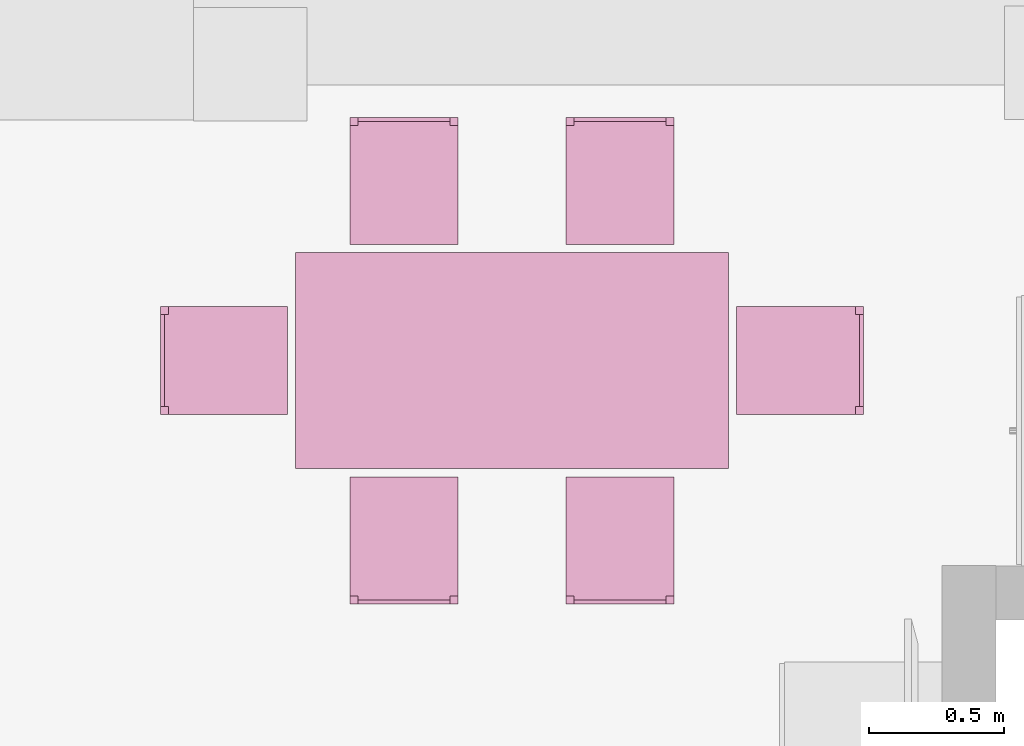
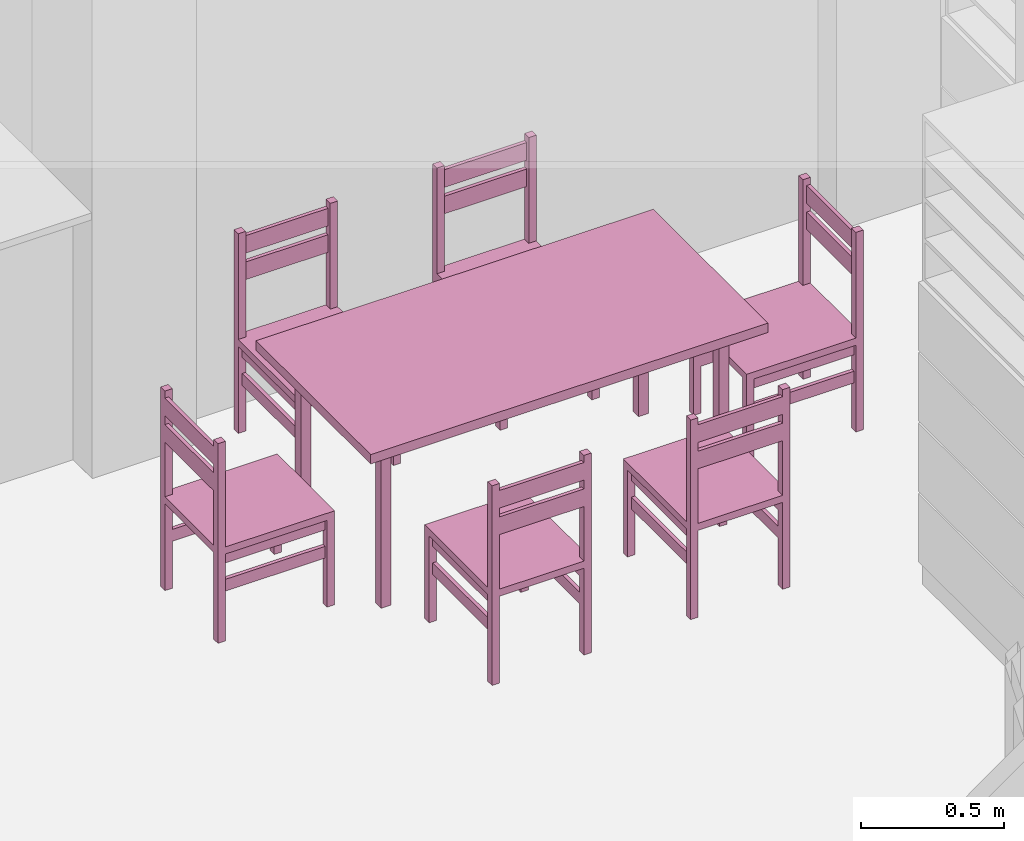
# One storey, part 105 of 127: 1 furnishing.
"""IFC2X3 building model written with IfcOpenShell, lengths in millimetres."""

from ifc_helpers import new_model, entity, si_unit, converted_unit, derived_unit, money_unit, direction, frame, origin_with_axes, place, context, subcontext, project, spatial, faceted_brep, type_object, element, save


model = new_model("IFC2X3")

# Units and contexts
model_context = context("Model", 3, precision=1e-05, world=origin_with_axes(), true_north=direction((0.0, 1.0)))
body_context = subcontext(model_context, "Body", "Model", "MODEL_VIEW")
ifc_project = project(units=[si_unit("LENGTHUNIT", "METRE", prefix="MILLI"), si_unit("AREAUNIT", "SQUARE_METRE"), si_unit("VOLUMEUNIT", "CUBIC_METRE"), converted_unit("PLANEANGLEUNIT", "DEGREE", entity("IfcPlaneAngleMeasure", 0.0174532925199), si_unit("PLANEANGLEUNIT", "RADIAN"), dimensions=[0, 0, 0, 0, 0, 0, 0]), si_unit("SOLIDANGLEUNIT", "STERADIAN"), money_unit("EUR"), converted_unit("TIMEUNIT", "Year", entity("IfcTimeMeasure", 31556926.0), si_unit("TIMEUNIT", "SECOND"), dimensions=[0, 0, 1, 0, 0, 0, 0]), si_unit("MASSUNIT", "GRAM", prefix="KILO"), si_unit("THERMODYNAMICTEMPERATUREUNIT", "DEGREE_CELSIUS"), si_unit("LUMINOUSINTENSITYUNIT", "LUMEN"), si_unit("ENERGYUNIT", "JOULE", prefix="MEGA"), derived_unit("THERMALCONDUCTANCEUNIT", [(si_unit("POWERUNIT", "WATT"), 1), (si_unit("LENGTHUNIT", "METRE"), -1), (si_unit("THERMODYNAMICTEMPERATUREUNIT", "KELVIN"), -1)]), derived_unit("SPECIFICHEATCAPACITYUNIT", [(si_unit("ENERGYUNIT", "JOULE"), 1), (si_unit("MASSUNIT", "GRAM", prefix="KILO"), -1), (si_unit("THERMODYNAMICTEMPERATUREUNIT", "KELVIN"), -1)]), derived_unit("MASSDENSITYUNIT", [(si_unit("MASSUNIT", "GRAM", prefix="KILO"), 1), (si_unit("VOLUMEUNIT", "CUBIC_METRE"), -1)])], contexts=[model_context])

# Site, building, storey
site_placement = place(None, origin_with_axes())
site = spatial("IfcSite", under=ifc_project, at=site_placement, Name="Site", CompositionType="ELEMENT")
building_placement = place(site_placement, origin_with_axes())
building = spatial("IfcBuilding", under=site, at=building_placement, Name="Building", CompositionType="ELEMENT")
storey_placement = place(building_placement, origin_with_axes())
storey = spatial("IfcBuildingStorey", under=building, at=storey_placement, Name="1 KORRUS", CompositionType="ELEMENT", Elevation=0.0)

# Furnishing
furnishing_element_type = type_object("IfcFurnishingElementType", Name="Dining Table Rectangle 22")
furnishing_placement = place(storey_placement, frame((34912.5371639, 45598.0911232, 0.0), z_axis=(0.0, 0.0, 1.0), x_axis=(1.0, 0.0, 0.0)))
element("IfcFurnishingElement", 1, at=furnishing_placement, inside=storey, type_object=furnishing_element_type, Name="FU - 017", context=body_context, shape_type="Brep", body=[
    faceted_brep([(-800.0, -400.0, 710.0), (800.0, -400.0, 710.0), (800.0, -400.0, 750.0), (-800.0, -400.0, 750.0), (-800.0, 400.0, 710.0), (800.0, 400.0, 710.0), (800.0, 400.0, 750.0), (-800.0, 400.0, 750.0)], [[[0, 1, 2, 3]], [[0, 4, 5, 1]], [[1, 5, 6, 2]], [[3, 2, 6, 7]], [[4, 0, 3, 7]], [[5, 4, 7, 6]]]),
    faceted_brep([(-660.0, -300.0, 0.0), (-700.0, -300.0, 0.0), (-700.0, -260.0, 0.0), (-660.0, -260.0, 0.0), (-660.0, -300.0, 710.0), (-700.0, -300.0, 710.0), (-700.0, -260.0, 710.0), (-660.0, -260.0, 710.0)], [[[0, 1, 2, 3]], [[1, 0, 4, 5]], [[2, 1, 5, 6]], [[3, 2, 6, 7]], [[0, 3, 7, 4]], [[5, 4, 7, 6]]]),
    faceted_brep([(700.0, -300.0, 0.0), (660.0, -300.0, 0.0), (660.0, -260.0, 0.0), (700.0, -260.0, 0.0), (700.0, -300.0, 710.0), (660.0, -300.0, 710.0), (660.0, -260.0, 710.0), (700.0, -260.0, 710.0)], [[[0, 1, 2, 3]], [[1, 0, 4, 5]], [[2, 1, 5, 6]], [[3, 2, 6, 7]], [[0, 3, 7, 4]], [[5, 4, 7, 6]]]),
    faceted_brep([(700.0, 260.0, 0.0), (660.0, 260.0, 0.0), (660.0, 300.0, 0.0), (700.0, 300.0, 0.0), (700.0, 260.0, 710.0), (660.0, 260.0, 710.0), (660.0, 300.0, 710.0), (700.0, 300.0, 710.0)], [[[0, 1, 2, 3]], [[1, 0, 4, 5]], [[2, 1, 5, 6]], [[3, 2, 6, 7]], [[0, 3, 7, 4]], [[5, 4, 7, 6]]]),
    faceted_brep([(-660.0, 260.0, 0.0), (-700.0, 260.0, 0.0), (-700.0, 300.0, 0.0), (-660.0, 300.0, 0.0), (-660.0, 260.0, 710.0), (-700.0, 260.0, 710.0), (-700.0, 300.0, 710.0), (-660.0, 300.0, 710.0)], [[[0, 1, 2, 3]], [[1, 0, 4, 5]], [[2, 1, 5, 6]], [[3, 2, 6, 7]], [[0, 3, 7, 4]], [[5, 4, 7, 6]]]),
    faceted_brep([(-660.0, -290.0, 660.0), (660.0, -290.0, 660.0), (660.0, -290.0, 710.0), (-660.0, -290.0, 710.0), (-660.0, -270.0, 660.0), (660.0, -270.0, 660.0), (660.0, -270.0, 710.0), (-660.0, -270.0, 710.0)], [[[0, 1, 2, 3]], [[0, 4, 5, 1]], [[1, 5, 6, 2]], [[3, 2, 6, 7]], [[4, 0, 3, 7]], [[5, 4, 7, 6]]]),
    faceted_brep([(-660.0, 270.0, 660.0), (660.0, 270.0, 660.0), (660.0, 270.0, 710.0), (-660.0, 270.0, 710.0), (-660.0, 290.0, 660.0), (660.0, 290.0, 660.0), (660.0, 290.0, 710.0), (-660.0, 290.0, 710.0)], [[[0, 1, 2, 3]], [[0, 4, 5, 1]], [[1, 5, 6, 2]], [[3, 2, 6, 7]], [[4, 0, 3, 7]], [[5, 4, 7, 6]]]),
    faceted_brep([(-690.0, -260.0, 660.0), (-670.0, -260.0, 660.0), (-670.0, -260.0, 710.0), (-690.0, -260.0, 710.0), (-690.0, 260.0, 660.0), (-670.0, 260.0, 660.0), (-670.0, 260.0, 710.0), (-690.0, 260.0, 710.0)], [[[0, 1, 2, 3]], [[0, 4, 5, 1]], [[1, 5, 6, 2]], [[3, 2, 6, 7]], [[4, 0, 3, 7]], [[5, 4, 7, 6]]]),
    faceted_brep([(670.0, -260.0, 660.0), (690.0, -260.0, 660.0), (690.0, -260.0, 710.0), (670.0, -260.0, 710.0), (670.0, 260.0, 660.0), (690.0, 260.0, 660.0), (690.0, 260.0, 710.0), (670.0, 260.0, 710.0)], [[[0, 1, 2, 3]], [[0, 4, 5, 1]], [[1, 5, 6, 2]], [[3, 2, 6, 7]], [[4, 0, 3, 7]], [[5, 4, 7, 6]]]),
    faceted_brep([(-230.0, 900.0, 370.0), (-230.0, 900.0, 400.0), (-230.0, 870.0, 400.0), (-230.0, 870.0, 370.0), (-570.0, 900.0, 370.0), (-570.0, 900.0, 400.0), (-570.0, 870.0, 400.0), (-600.0, 870.0, 400.0), (-600.0, 430.0, 400.0), (-200.0, 430.0, 400.0), (-200.0, 870.0, 400.0), (-200.0, 870.0, 370.0), (-200.0, 430.0, 370.0), (-600.0, 430.0, 370.0), (-600.0, 870.0, 370.0), (-570.0, 870.0, 370.0)], [[[0, 1, 2, 3]], [[4, 5, 1, 0]], [[1, 5, 6, 7, 8, 9, 10, 2]], [[3, 2, 10, 11]], [[0, 3, 11, 12, 13, 14, 15, 4]], [[15, 6, 5, 4]], [[14, 7, 6, 15]], [[13, 8, 7, 14]], [[12, 9, 8, 13]], [[11, 10, 9, 12]]]),
    faceted_brep([(-570.0, 900.0, 0.0), (-570.0, 870.0, 0.0), (-600.0, 870.0, 0.0), (-600.0, 900.0, 0.0), (-570.0, 900.0, 850.0), (-570.0, 870.0, 850.0), (-600.0, 870.0, 850.0), (-600.0, 900.0, 850.0)], [[[0, 1, 2, 3]], [[0, 4, 5, 1]], [[1, 5, 6, 2]], [[2, 6, 7, 3]], [[3, 7, 4, 0]], [[7, 6, 5, 4]]]),
    faceted_brep([(-570.0, 460.0, 0.0), (-570.0, 430.0, 0.0), (-600.0, 430.0, 0.0), (-600.0, 460.0, 0.0), (-570.0, 460.0, 370.0), (-570.0, 430.0, 370.0), (-600.0, 430.0, 370.0), (-600.0, 460.0, 370.0)], [[[0, 1, 2, 3]], [[0, 4, 5, 1]], [[1, 5, 6, 2]], [[2, 6, 7, 3]], [[3, 7, 4, 0]], [[7, 6, 5, 4]]]),
    faceted_brep([(-230.0, 900.0, 0.0), (-200.0, 900.0, 0.0), (-200.0, 870.0, 0.0), (-230.0, 870.0, 0.0), (-230.0, 900.0, 850.0), (-200.0, 900.0, 850.0), (-200.0, 870.0, 850.0), (-230.0, 870.0, 850.0)], [[[0, 1, 2, 3]], [[1, 0, 4, 5]], [[2, 1, 5, 6]], [[3, 2, 6, 7]], [[0, 3, 7, 4]], [[5, 4, 7, 6]]]),
    faceted_brep([(-230.0, 460.0, 0.0), (-200.0, 460.0, 0.0), (-200.0, 430.0, 0.0), (-230.0, 430.0, 0.0), (-230.0, 460.0, 370.0), (-200.0, 460.0, 370.0), (-200.0, 430.0, 370.0), (-230.0, 430.0, 370.0)], [[[0, 1, 2, 3]], [[1, 0, 4, 5]], [[2, 1, 5, 6]], [[3, 2, 6, 7]], [[0, 3, 7, 4]], [[5, 4, 7, 6]]]),
    faceted_brep([(-570.0, 870.0, 320.0), (-570.0, 460.0, 320.0), (-585.0, 460.0, 320.0), (-585.0, 870.0, 320.0), (-570.0, 870.0, 370.0), (-570.0, 460.0, 370.0), (-585.0, 460.0, 370.0), (-585.0, 870.0, 370.0)], [[[0, 1, 2, 3]], [[0, 4, 5, 1]], [[1, 5, 6, 2]], [[2, 6, 7, 3]], [[3, 7, 4, 0]], [[7, 6, 5, 4]]]),
    faceted_brep([(-570.0, 870.0, 200.0), (-570.0, 460.0, 200.0), (-585.0, 460.0, 200.0), (-585.0, 870.0, 200.0), (-570.0, 870.0, 250.0), (-570.0, 460.0, 250.0), (-585.0, 460.0, 250.0), (-585.0, 870.0, 250.0)], [[[0, 1, 2, 3]], [[0, 4, 5, 1]], [[1, 5, 6, 2]], [[2, 6, 7, 3]], [[3, 7, 4, 0]], [[7, 6, 5, 4]]]),
    faceted_brep([(-230.0, 870.0, 320.0), (-215.0, 870.0, 320.0), (-215.0, 460.0, 320.0), (-230.0, 460.0, 320.0), (-230.0, 870.0, 370.0), (-215.0, 870.0, 370.0), (-215.0, 460.0, 370.0), (-230.0, 460.0, 370.0)], [[[0, 1, 2, 3]], [[1, 0, 4, 5]], [[2, 1, 5, 6]], [[3, 2, 6, 7]], [[0, 3, 7, 4]], [[5, 4, 7, 6]]]),
    faceted_brep([(-230.0, 870.0, 200.0), (-215.0, 870.0, 200.0), (-215.0, 460.0, 200.0), (-230.0, 460.0, 200.0), (-230.0, 870.0, 250.0), (-215.0, 870.0, 250.0), (-215.0, 460.0, 250.0), (-230.0, 460.0, 250.0)], [[[0, 1, 2, 3]], [[1, 0, 4, 5]], [[2, 1, 5, 6]], [[3, 2, 6, 7]], [[0, 3, 7, 4]], [[5, 4, 7, 6]]]),
    faceted_brep([(-230.0, 900.0, 745.0), (-230.0, 885.0, 745.0), (-570.0, 885.0, 745.0), (-570.0, 900.0, 745.0), (-230.0, 900.0, 820.0), (-230.0, 885.0, 820.0), (-570.0, 885.0, 820.0), (-570.0, 900.0, 820.0)], [[[0, 1, 2, 3]], [[0, 4, 5, 1]], [[1, 5, 6, 2]], [[2, 6, 7, 3]], [[3, 7, 4, 0]], [[7, 6, 5, 4]]]),
    faceted_brep([(-230.0, 900.0, 632.5), (-230.0, 885.0, 632.5), (-570.0, 885.0, 632.5), (-570.0, 900.0, 632.5), (-230.0, 900.0, 707.5), (-230.0, 885.0, 707.5), (-570.0, 885.0, 707.5), (-570.0, 900.0, 707.5)], [[[0, 1, 2, 3]], [[0, 4, 5, 1]], [[1, 5, 6, 2]], [[2, 6, 7, 3]], [[3, 7, 4, 0]], [[7, 6, 5, 4]]]),
    faceted_brep([(570.0, 900.0, 370.0), (570.0, 900.0, 400.0), (570.0, 870.0, 400.0), (570.0, 870.0, 370.0), (230.0, 900.0, 370.0), (230.0, 900.0, 400.0), (230.0, 870.0, 400.0), (200.0, 870.0, 400.0), (200.0, 430.0, 400.0), (600.0, 430.0, 400.0), (600.0, 870.0, 400.0), (600.0, 870.0, 370.0), (600.0, 430.0, 370.0), (200.0, 430.0, 370.0), (200.0, 870.0, 370.0), (230.0, 870.0, 370.0)], [[[0, 1, 2, 3]], [[4, 5, 1, 0]], [[1, 5, 6, 7, 8, 9, 10, 2]], [[3, 2, 10, 11]], [[0, 3, 11, 12, 13, 14, 15, 4]], [[15, 6, 5, 4]], [[14, 7, 6, 15]], [[13, 8, 7, 14]], [[12, 9, 8, 13]], [[11, 10, 9, 12]]]),
    faceted_brep([(230.0, 900.0, 0.0), (230.0, 870.0, 0.0), (200.0, 870.0, 0.0), (200.0, 900.0, 0.0), (230.0, 900.0, 850.0), (230.0, 870.0, 850.0), (200.0, 870.0, 850.0), (200.0, 900.0, 850.0)], [[[0, 1, 2, 3]], [[0, 4, 5, 1]], [[1, 5, 6, 2]], [[2, 6, 7, 3]], [[3, 7, 4, 0]], [[7, 6, 5, 4]]]),
    faceted_brep([(230.0, 460.0, 0.0), (230.0, 430.0, 0.0), (200.0, 430.0, 0.0), (200.0, 460.0, 0.0), (230.0, 460.0, 370.0), (230.0, 430.0, 370.0), (200.0, 430.0, 370.0), (200.0, 460.0, 370.0)], [[[0, 1, 2, 3]], [[0, 4, 5, 1]], [[1, 5, 6, 2]], [[2, 6, 7, 3]], [[3, 7, 4, 0]], [[7, 6, 5, 4]]]),
    faceted_brep([(570.0, 900.0, 0.0), (600.0, 900.0, 0.0), (600.0, 870.0, 0.0), (570.0, 870.0, 0.0), (570.0, 900.0, 850.0), (600.0, 900.0, 850.0), (600.0, 870.0, 850.0), (570.0, 870.0, 850.0)], [[[0, 1, 2, 3]], [[1, 0, 4, 5]], [[2, 1, 5, 6]], [[3, 2, 6, 7]], [[0, 3, 7, 4]], [[5, 4, 7, 6]]]),
    faceted_brep([(570.0, 460.0, 0.0), (600.0, 460.0, 0.0), (600.0, 430.0, 0.0), (570.0, 430.0, 0.0), (570.0, 460.0, 370.0), (600.0, 460.0, 370.0), (600.0, 430.0, 370.0), (570.0, 430.0, 370.0)], [[[0, 1, 2, 3]], [[1, 0, 4, 5]], [[2, 1, 5, 6]], [[3, 2, 6, 7]], [[0, 3, 7, 4]], [[5, 4, 7, 6]]]),
    faceted_brep([(230.0, 870.0, 320.0), (230.0, 460.0, 320.0), (215.0, 460.0, 320.0), (215.0, 870.0, 320.0), (230.0, 870.0, 370.0), (230.0, 460.0, 370.0), (215.0, 460.0, 370.0), (215.0, 870.0, 370.0)], [[[0, 1, 2, 3]], [[0, 4, 5, 1]], [[1, 5, 6, 2]], [[2, 6, 7, 3]], [[3, 7, 4, 0]], [[7, 6, 5, 4]]]),
    faceted_brep([(230.0, 870.0, 200.0), (230.0, 460.0, 200.0), (215.0, 460.0, 200.0), (215.0, 870.0, 200.0), (230.0, 870.0, 250.0), (230.0, 460.0, 250.0), (215.0, 460.0, 250.0), (215.0, 870.0, 250.0)], [[[0, 1, 2, 3]], [[0, 4, 5, 1]], [[1, 5, 6, 2]], [[2, 6, 7, 3]], [[3, 7, 4, 0]], [[7, 6, 5, 4]]]),
    faceted_brep([(570.0, 870.0, 320.0), (585.0, 870.0, 320.0), (585.0, 460.0, 320.0), (570.0, 460.0, 320.0), (570.0, 870.0, 370.0), (585.0, 870.0, 370.0), (585.0, 460.0, 370.0), (570.0, 460.0, 370.0)], [[[0, 1, 2, 3]], [[1, 0, 4, 5]], [[2, 1, 5, 6]], [[3, 2, 6, 7]], [[0, 3, 7, 4]], [[5, 4, 7, 6]]]),
    faceted_brep([(570.0, 870.0, 200.0), (585.0, 870.0, 200.0), (585.0, 460.0, 200.0), (570.0, 460.0, 200.0), (570.0, 870.0, 250.0), (585.0, 870.0, 250.0), (585.0, 460.0, 250.0), (570.0, 460.0, 250.0)], [[[0, 1, 2, 3]], [[1, 0, 4, 5]], [[2, 1, 5, 6]], [[3, 2, 6, 7]], [[0, 3, 7, 4]], [[5, 4, 7, 6]]]),
    faceted_brep([(570.0, 900.0, 745.0), (570.0, 885.0, 745.0), (230.0, 885.0, 745.0), (230.0, 900.0, 745.0), (570.0, 900.0, 820.0), (570.0, 885.0, 820.0), (230.0, 885.0, 820.0), (230.0, 900.0, 820.0)], [[[0, 1, 2, 3]], [[0, 4, 5, 1]], [[1, 5, 6, 2]], [[2, 6, 7, 3]], [[3, 7, 4, 0]], [[7, 6, 5, 4]]]),
    faceted_brep([(570.0, 900.0, 632.5), (570.0, 885.0, 632.5), (230.0, 885.0, 632.5), (230.0, 900.0, 632.5), (570.0, 900.0, 707.5), (570.0, 885.0, 707.5), (230.0, 885.0, 707.5), (230.0, 900.0, 707.5)], [[[0, 1, 2, 3]], [[0, 4, 5, 1]], [[1, 5, 6, 2]], [[2, 6, 7, 3]], [[3, 7, 4, 0]], [[7, 6, 5, 4]]]),
    faceted_brep([(-230.0, -900.0, 370.0), (-230.0, -870.0, 370.0), (-230.0, -870.0, 400.0), (-230.0, -900.0, 400.0), (-570.0, -900.0, 370.0), (-570.0, -870.0, 370.0), (-600.0, -870.0, 370.0), (-600.0, -430.0, 370.0), (-200.0, -430.0, 370.0), (-200.0, -870.0, 370.0), (-200.0, -870.0, 400.0), (-200.0, -430.0, 400.0), (-600.0, -430.0, 400.0), (-600.0, -870.0, 400.0), (-570.0, -870.0, 400.0), (-570.0, -900.0, 400.0)], [[[0, 1, 2, 3]], [[0, 4, 5, 6, 7, 8, 9, 1]], [[1, 9, 10, 2]], [[3, 2, 10, 11, 12, 13, 14, 15]], [[4, 0, 3, 15]], [[5, 4, 15, 14]], [[6, 5, 14, 13]], [[7, 6, 13, 12]], [[8, 7, 12, 11]], [[9, 8, 11, 10]]]),
    faceted_brep([(-570.0, -900.0, 0.0), (-600.0, -900.0, 0.0), (-600.0, -870.0, 0.0), (-570.0, -870.0, 0.0), (-570.0, -900.0, 850.0), (-600.0, -900.0, 850.0), (-600.0, -870.0, 850.0), (-570.0, -870.0, 850.0)], [[[0, 1, 2, 3]], [[1, 0, 4, 5]], [[2, 1, 5, 6]], [[3, 2, 6, 7]], [[0, 3, 7, 4]], [[5, 4, 7, 6]]]),
    faceted_brep([(-570.0, -460.0, 0.0), (-600.0, -460.0, 0.0), (-600.0, -430.0, 0.0), (-570.0, -430.0, 0.0), (-570.0, -460.0, 370.0), (-600.0, -460.0, 370.0), (-600.0, -430.0, 370.0), (-570.0, -430.0, 370.0)], [[[0, 1, 2, 3]], [[1, 0, 4, 5]], [[2, 1, 5, 6]], [[3, 2, 6, 7]], [[0, 3, 7, 4]], [[5, 4, 7, 6]]]),
    faceted_brep([(-230.0, -900.0, 0.0), (-230.0, -870.0, 0.0), (-200.0, -870.0, 0.0), (-200.0, -900.0, 0.0), (-230.0, -900.0, 850.0), (-230.0, -870.0, 850.0), (-200.0, -870.0, 850.0), (-200.0, -900.0, 850.0)], [[[0, 1, 2, 3]], [[0, 4, 5, 1]], [[1, 5, 6, 2]], [[2, 6, 7, 3]], [[3, 7, 4, 0]], [[7, 6, 5, 4]]]),
    faceted_brep([(-230.0, -460.0, 0.0), (-230.0, -430.0, 0.0), (-200.0, -430.0, 0.0), (-200.0, -460.0, 0.0), (-230.0, -460.0, 370.0), (-230.0, -430.0, 370.0), (-200.0, -430.0, 370.0), (-200.0, -460.0, 370.0)], [[[0, 1, 2, 3]], [[0, 4, 5, 1]], [[1, 5, 6, 2]], [[2, 6, 7, 3]], [[3, 7, 4, 0]], [[7, 6, 5, 4]]]),
    faceted_brep([(-570.0, -870.0, 320.0), (-585.0, -870.0, 320.0), (-585.0, -460.0, 320.0), (-570.0, -460.0, 320.0), (-570.0, -870.0, 370.0), (-585.0, -870.0, 370.0), (-585.0, -460.0, 370.0), (-570.0, -460.0, 370.0)], [[[0, 1, 2, 3]], [[1, 0, 4, 5]], [[2, 1, 5, 6]], [[3, 2, 6, 7]], [[0, 3, 7, 4]], [[5, 4, 7, 6]]]),
    faceted_brep([(-570.0, -870.0, 200.0), (-585.0, -870.0, 200.0), (-585.0, -460.0, 200.0), (-570.0, -460.0, 200.0), (-570.0, -870.0, 250.0), (-585.0, -870.0, 250.0), (-585.0, -460.0, 250.0), (-570.0, -460.0, 250.0)], [[[0, 1, 2, 3]], [[1, 0, 4, 5]], [[2, 1, 5, 6]], [[3, 2, 6, 7]], [[0, 3, 7, 4]], [[5, 4, 7, 6]]]),
    faceted_brep([(-230.0, -870.0, 320.0), (-230.0, -460.0, 320.0), (-215.0, -460.0, 320.0), (-215.0, -870.0, 320.0), (-230.0, -870.0, 370.0), (-230.0, -460.0, 370.0), (-215.0, -460.0, 370.0), (-215.0, -870.0, 370.0)], [[[0, 1, 2, 3]], [[0, 4, 5, 1]], [[1, 5, 6, 2]], [[2, 6, 7, 3]], [[3, 7, 4, 0]], [[7, 6, 5, 4]]]),
    faceted_brep([(-230.0, -870.0, 200.0), (-230.0, -460.0, 200.0), (-215.0, -460.0, 200.0), (-215.0, -870.0, 200.0), (-230.0, -870.0, 250.0), (-230.0, -460.0, 250.0), (-215.0, -460.0, 250.0), (-215.0, -870.0, 250.0)], [[[0, 1, 2, 3]], [[0, 4, 5, 1]], [[1, 5, 6, 2]], [[2, 6, 7, 3]], [[3, 7, 4, 0]], [[7, 6, 5, 4]]]),
    faceted_brep([(-230.0, -900.0, 745.0), (-570.0, -900.0, 745.0), (-570.0, -885.0, 745.0), (-230.0, -885.0, 745.0), (-230.0, -900.0, 820.0), (-570.0, -900.0, 820.0), (-570.0, -885.0, 820.0), (-230.0, -885.0, 820.0)], [[[0, 1, 2, 3]], [[1, 0, 4, 5]], [[2, 1, 5, 6]], [[3, 2, 6, 7]], [[0, 3, 7, 4]], [[5, 4, 7, 6]]]),
    faceted_brep([(-230.0, -900.0, 632.5), (-570.0, -900.0, 632.5), (-570.0, -885.0, 632.5), (-230.0, -885.0, 632.5), (-230.0, -900.0, 707.5), (-570.0, -900.0, 707.5), (-570.0, -885.0, 707.5), (-230.0, -885.0, 707.5)], [[[0, 1, 2, 3]], [[1, 0, 4, 5]], [[2, 1, 5, 6]], [[3, 2, 6, 7]], [[0, 3, 7, 4]], [[5, 4, 7, 6]]]),
    faceted_brep([(570.0, -900.0, 370.0), (570.0, -870.0, 370.0), (570.0, -870.0, 400.0), (570.0, -900.0, 400.0), (230.0, -900.0, 370.0), (230.0, -870.0, 370.0), (200.0, -870.0, 370.0), (200.0, -430.0, 370.0), (600.0, -430.0, 370.0), (600.0, -870.0, 370.0), (600.0, -870.0, 400.0), (600.0, -430.0, 400.0), (200.0, -430.0, 400.0), (200.0, -870.0, 400.0), (230.0, -870.0, 400.0), (230.0, -900.0, 400.0)], [[[0, 1, 2, 3]], [[0, 4, 5, 6, 7, 8, 9, 1]], [[1, 9, 10, 2]], [[3, 2, 10, 11, 12, 13, 14, 15]], [[4, 0, 3, 15]], [[5, 4, 15, 14]], [[6, 5, 14, 13]], [[7, 6, 13, 12]], [[8, 7, 12, 11]], [[9, 8, 11, 10]]]),
    faceted_brep([(230.0, -900.0, 0.0), (200.0, -900.0, 0.0), (200.0, -870.0, 0.0), (230.0, -870.0, 0.0), (230.0, -900.0, 850.0), (200.0, -900.0, 850.0), (200.0, -870.0, 850.0), (230.0, -870.0, 850.0)], [[[0, 1, 2, 3]], [[1, 0, 4, 5]], [[2, 1, 5, 6]], [[3, 2, 6, 7]], [[0, 3, 7, 4]], [[5, 4, 7, 6]]]),
    faceted_brep([(230.0, -460.0, 0.0), (200.0, -460.0, 0.0), (200.0, -430.0, 0.0), (230.0, -430.0, 0.0), (230.0, -460.0, 370.0), (200.0, -460.0, 370.0), (200.0, -430.0, 370.0), (230.0, -430.0, 370.0)], [[[0, 1, 2, 3]], [[1, 0, 4, 5]], [[2, 1, 5, 6]], [[3, 2, 6, 7]], [[0, 3, 7, 4]], [[5, 4, 7, 6]]]),
    faceted_brep([(570.0, -900.0, 0.0), (570.0, -870.0, 0.0), (600.0, -870.0, 0.0), (600.0, -900.0, 0.0), (570.0, -900.0, 850.0), (570.0, -870.0, 850.0), (600.0, -870.0, 850.0), (600.0, -900.0, 850.0)], [[[0, 1, 2, 3]], [[0, 4, 5, 1]], [[1, 5, 6, 2]], [[2, 6, 7, 3]], [[3, 7, 4, 0]], [[7, 6, 5, 4]]]),
    faceted_brep([(570.0, -460.0, 0.0), (570.0, -430.0, 0.0), (600.0, -430.0, 0.0), (600.0, -460.0, 0.0), (570.0, -460.0, 370.0), (570.0, -430.0, 370.0), (600.0, -430.0, 370.0), (600.0, -460.0, 370.0)], [[[0, 1, 2, 3]], [[0, 4, 5, 1]], [[1, 5, 6, 2]], [[2, 6, 7, 3]], [[3, 7, 4, 0]], [[7, 6, 5, 4]]]),
    faceted_brep([(230.0, -870.0, 320.0), (215.0, -870.0, 320.0), (215.0, -460.0, 320.0), (230.0, -460.0, 320.0), (230.0, -870.0, 370.0), (215.0, -870.0, 370.0), (215.0, -460.0, 370.0), (230.0, -460.0, 370.0)], [[[0, 1, 2, 3]], [[1, 0, 4, 5]], [[2, 1, 5, 6]], [[3, 2, 6, 7]], [[0, 3, 7, 4]], [[5, 4, 7, 6]]]),
    faceted_brep([(230.0, -870.0, 200.0), (215.0, -870.0, 200.0), (215.0, -460.0, 200.0), (230.0, -460.0, 200.0), (230.0, -870.0, 250.0), (215.0, -870.0, 250.0), (215.0, -460.0, 250.0), (230.0, -460.0, 250.0)], [[[0, 1, 2, 3]], [[1, 0, 4, 5]], [[2, 1, 5, 6]], [[3, 2, 6, 7]], [[0, 3, 7, 4]], [[5, 4, 7, 6]]]),
    faceted_brep([(570.0, -870.0, 320.0), (570.0, -460.0, 320.0), (585.0, -460.0, 320.0), (585.0, -870.0, 320.0), (570.0, -870.0, 370.0), (570.0, -460.0, 370.0), (585.0, -460.0, 370.0), (585.0, -870.0, 370.0)], [[[0, 1, 2, 3]], [[0, 4, 5, 1]], [[1, 5, 6, 2]], [[2, 6, 7, 3]], [[3, 7, 4, 0]], [[7, 6, 5, 4]]]),
    faceted_brep([(570.0, -870.0, 200.0), (570.0, -460.0, 200.0), (585.0, -460.0, 200.0), (585.0, -870.0, 200.0), (570.0, -870.0, 250.0), (570.0, -460.0, 250.0), (585.0, -460.0, 250.0), (585.0, -870.0, 250.0)], [[[0, 1, 2, 3]], [[0, 4, 5, 1]], [[1, 5, 6, 2]], [[2, 6, 7, 3]], [[3, 7, 4, 0]], [[7, 6, 5, 4]]]),
    faceted_brep([(570.0, -900.0, 745.0), (230.0, -900.0, 745.0), (230.0, -885.0, 745.0), (570.0, -885.0, 745.0), (570.0, -900.0, 820.0), (230.0, -900.0, 820.0), (230.0, -885.0, 820.0), (570.0, -885.0, 820.0)], [[[0, 1, 2, 3]], [[1, 0, 4, 5]], [[2, 1, 5, 6]], [[3, 2, 6, 7]], [[0, 3, 7, 4]], [[5, 4, 7, 6]]]),
    faceted_brep([(570.0, -900.0, 632.5), (230.0, -900.0, 632.5), (230.0, -885.0, 632.5), (570.0, -885.0, 632.5), (570.0, -900.0, 707.5), (230.0, -900.0, 707.5), (230.0, -885.0, 707.5), (570.0, -885.0, 707.5)], [[[0, 1, 2, 3]], [[1, 0, 4, 5]], [[2, 1, 5, 6]], [[3, 2, 6, 7]], [[0, 3, 7, 4]], [[5, 4, 7, 6]]]),
    faceted_brep([(-1300.0, 170.0, 370.0), (-1300.0, 170.0, 400.0), (-1270.0, 170.0, 400.0), (-1270.0, 170.0, 370.0), (-1300.0, -170.0, 370.0), (-1300.0, -170.0, 400.0), (-1270.0, -170.0, 400.0), (-1270.0, -200.0, 400.0), (-830.0, -200.0, 400.0), (-830.0, 200.0, 400.0), (-1270.0, 200.0, 400.0), (-1270.0, 200.0, 370.0), (-830.0, 200.0, 370.0), (-830.0, -200.0, 370.0), (-1270.0, -200.0, 370.0), (-1270.0, -170.0, 370.0)], [[[0, 1, 2, 3]], [[4, 5, 1, 0]], [[1, 5, 6, 7, 8, 9, 10, 2]], [[3, 2, 10, 11]], [[0, 3, 11, 12, 13, 14, 15, 4]], [[15, 6, 5, 4]], [[14, 7, 6, 15]], [[13, 8, 7, 14]], [[12, 9, 8, 13]], [[11, 10, 9, 12]]]),
    faceted_brep([(-1300.0, -170.0, 0.0), (-1270.0, -170.0, 0.0), (-1270.0, -200.0, 0.0), (-1300.0, -200.0, 0.0), (-1300.0, -170.0, 850.0), (-1270.0, -170.0, 850.0), (-1270.0, -200.0, 850.0), (-1300.0, -200.0, 850.0)], [[[0, 1, 2, 3]], [[0, 4, 5, 1]], [[1, 5, 6, 2]], [[2, 6, 7, 3]], [[3, 7, 4, 0]], [[7, 6, 5, 4]]]),
    faceted_brep([(-860.0, -170.0, 0.0), (-830.0, -170.0, 0.0), (-830.0, -200.0, 0.0), (-860.0, -200.0, 0.0), (-860.0, -170.0, 370.0), (-830.0, -170.0, 370.0), (-830.0, -200.0, 370.0), (-860.0, -200.0, 370.0)], [[[0, 1, 2, 3]], [[0, 4, 5, 1]], [[1, 5, 6, 2]], [[2, 6, 7, 3]], [[3, 7, 4, 0]], [[7, 6, 5, 4]]]),
    faceted_brep([(-1300.0, 170.0, 0.0), (-1300.0, 200.0, 0.0), (-1270.0, 200.0, 0.0), (-1270.0, 170.0, 0.0), (-1300.0, 170.0, 850.0), (-1300.0, 200.0, 850.0), (-1270.0, 200.0, 850.0), (-1270.0, 170.0, 850.0)], [[[0, 1, 2, 3]], [[1, 0, 4, 5]], [[2, 1, 5, 6]], [[3, 2, 6, 7]], [[0, 3, 7, 4]], [[5, 4, 7, 6]]]),
    faceted_brep([(-860.0, 170.0, 0.0), (-860.0, 200.0, 0.0), (-830.0, 200.0, 0.0), (-830.0, 170.0, 0.0), (-860.0, 170.0, 370.0), (-860.0, 200.0, 370.0), (-830.0, 200.0, 370.0), (-830.0, 170.0, 370.0)], [[[0, 1, 2, 3]], [[1, 0, 4, 5]], [[2, 1, 5, 6]], [[3, 2, 6, 7]], [[0, 3, 7, 4]], [[5, 4, 7, 6]]]),
    faceted_brep([(-1270.0, -170.0, 320.0), (-860.0, -170.0, 320.0), (-860.0, -185.0, 320.0), (-1270.0, -185.0, 320.0), (-1270.0, -170.0, 370.0), (-860.0, -170.0, 370.0), (-860.0, -185.0, 370.0), (-1270.0, -185.0, 370.0)], [[[0, 1, 2, 3]], [[0, 4, 5, 1]], [[1, 5, 6, 2]], [[2, 6, 7, 3]], [[3, 7, 4, 0]], [[7, 6, 5, 4]]]),
    faceted_brep([(-1270.0, -170.0, 200.0), (-860.0, -170.0, 200.0), (-860.0, -185.0, 200.0), (-1270.0, -185.0, 200.0), (-1270.0, -170.0, 250.0), (-860.0, -170.0, 250.0), (-860.0, -185.0, 250.0), (-1270.0, -185.0, 250.0)], [[[0, 1, 2, 3]], [[0, 4, 5, 1]], [[1, 5, 6, 2]], [[2, 6, 7, 3]], [[3, 7, 4, 0]], [[7, 6, 5, 4]]]),
    faceted_brep([(-1270.0, 170.0, 320.0), (-1270.0, 185.0, 320.0), (-860.0, 185.0, 320.0), (-860.0, 170.0, 320.0), (-1270.0, 170.0, 370.0), (-1270.0, 185.0, 370.0), (-860.0, 185.0, 370.0), (-860.0, 170.0, 370.0)], [[[0, 1, 2, 3]], [[1, 0, 4, 5]], [[2, 1, 5, 6]], [[3, 2, 6, 7]], [[0, 3, 7, 4]], [[5, 4, 7, 6]]]),
    faceted_brep([(-1270.0, 170.0, 200.0), (-1270.0, 185.0, 200.0), (-860.0, 185.0, 200.0), (-860.0, 170.0, 200.0), (-1270.0, 170.0, 250.0), (-1270.0, 185.0, 250.0), (-860.0, 185.0, 250.0), (-860.0, 170.0, 250.0)], [[[0, 1, 2, 3]], [[1, 0, 4, 5]], [[2, 1, 5, 6]], [[3, 2, 6, 7]], [[0, 3, 7, 4]], [[5, 4, 7, 6]]]),
    faceted_brep([(-1300.0, 170.0, 745.0), (-1285.0, 170.0, 745.0), (-1285.0, -170.0, 745.0), (-1300.0, -170.0, 745.0), (-1300.0, 170.0, 820.0), (-1285.0, 170.0, 820.0), (-1285.0, -170.0, 820.0), (-1300.0, -170.0, 820.0)], [[[0, 1, 2, 3]], [[0, 4, 5, 1]], [[1, 5, 6, 2]], [[2, 6, 7, 3]], [[3, 7, 4, 0]], [[7, 6, 5, 4]]]),
    faceted_brep([(-1300.0, 170.0, 632.5), (-1285.0, 170.0, 632.5), (-1285.0, -170.0, 632.5), (-1300.0, -170.0, 632.5), (-1300.0, 170.0, 707.5), (-1285.0, 170.0, 707.5), (-1285.0, -170.0, 707.5), (-1300.0, -170.0, 707.5)], [[[0, 1, 2, 3]], [[0, 4, 5, 1]], [[1, 5, 6, 2]], [[2, 6, 7, 3]], [[3, 7, 4, 0]], [[7, 6, 5, 4]]]),
    faceted_brep([(1300.0, -170.0, 370.0), (1300.0, -170.0, 400.0), (1270.0, -170.0, 400.0), (1270.0, -170.0, 370.0), (1300.0, 170.0, 370.0), (1300.0, 170.0, 400.0), (1270.0, 170.0, 400.0), (1270.0, 200.0, 400.0), (830.0, 200.0, 400.0), (830.0, -200.0, 400.0), (1270.0, -200.0, 400.0), (1270.0, -200.0, 370.0), (830.0, -200.0, 370.0), (830.0, 200.0, 370.0), (1270.0, 200.0, 370.0), (1270.0, 170.0, 370.0)], [[[0, 1, 2, 3]], [[4, 5, 1, 0]], [[1, 5, 6, 7, 8, 9, 10, 2]], [[3, 2, 10, 11]], [[0, 3, 11, 12, 13, 14, 15, 4]], [[15, 6, 5, 4]], [[14, 7, 6, 15]], [[13, 8, 7, 14]], [[12, 9, 8, 13]], [[11, 10, 9, 12]]]),
    faceted_brep([(1300.0, 170.0, 0.0), (1270.0, 170.0, 0.0), (1270.0, 200.0, 0.0), (1300.0, 200.0, 0.0), (1300.0, 170.0, 850.0), (1270.0, 170.0, 850.0), (1270.0, 200.0, 850.0), (1300.0, 200.0, 850.0)], [[[0, 1, 2, 3]], [[0, 4, 5, 1]], [[1, 5, 6, 2]], [[2, 6, 7, 3]], [[3, 7, 4, 0]], [[7, 6, 5, 4]]]),
    faceted_brep([(860.0, 170.0, 0.0), (830.0, 170.0, 0.0), (830.0, 200.0, 0.0), (860.0, 200.0, 0.0), (860.0, 170.0, 370.0), (830.0, 170.0, 370.0), (830.0, 200.0, 370.0), (860.0, 200.0, 370.0)], [[[0, 1, 2, 3]], [[0, 4, 5, 1]], [[1, 5, 6, 2]], [[2, 6, 7, 3]], [[3, 7, 4, 0]], [[7, 6, 5, 4]]]),
    faceted_brep([(1300.0, -170.0, 0.0), (1300.0, -200.0, 0.0), (1270.0, -200.0, 0.0), (1270.0, -170.0, 0.0), (1300.0, -170.0, 850.0), (1300.0, -200.0, 850.0), (1270.0, -200.0, 850.0), (1270.0, -170.0, 850.0)], [[[0, 1, 2, 3]], [[1, 0, 4, 5]], [[2, 1, 5, 6]], [[3, 2, 6, 7]], [[0, 3, 7, 4]], [[5, 4, 7, 6]]]),
    faceted_brep([(860.0, -170.0, 0.0), (860.0, -200.0, 0.0), (830.0, -200.0, 0.0), (830.0, -170.0, 0.0), (860.0, -170.0, 370.0), (860.0, -200.0, 370.0), (830.0, -200.0, 370.0), (830.0, -170.0, 370.0)], [[[0, 1, 2, 3]], [[1, 0, 4, 5]], [[2, 1, 5, 6]], [[3, 2, 6, 7]], [[0, 3, 7, 4]], [[5, 4, 7, 6]]]),
    faceted_brep([(1270.0, 170.0, 320.0), (860.0, 170.0, 320.0), (860.0, 185.0, 320.0), (1270.0, 185.0, 320.0), (1270.0, 170.0, 370.0), (860.0, 170.0, 370.0), (860.0, 185.0, 370.0), (1270.0, 185.0, 370.0)], [[[0, 1, 2, 3]], [[0, 4, 5, 1]], [[1, 5, 6, 2]], [[2, 6, 7, 3]], [[3, 7, 4, 0]], [[7, 6, 5, 4]]]),
    faceted_brep([(1270.0, 170.0, 200.0), (860.0, 170.0, 200.0), (860.0, 185.0, 200.0), (1270.0, 185.0, 200.0), (1270.0, 170.0, 250.0), (860.0, 170.0, 250.0), (860.0, 185.0, 250.0), (1270.0, 185.0, 250.0)], [[[0, 1, 2, 3]], [[0, 4, 5, 1]], [[1, 5, 6, 2]], [[2, 6, 7, 3]], [[3, 7, 4, 0]], [[7, 6, 5, 4]]]),
    faceted_brep([(1270.0, -170.0, 320.0), (1270.0, -185.0, 320.0), (860.0, -185.0, 320.0), (860.0, -170.0, 320.0), (1270.0, -170.0, 370.0), (1270.0, -185.0, 370.0), (860.0, -185.0, 370.0), (860.0, -170.0, 370.0)], [[[0, 1, 2, 3]], [[1, 0, 4, 5]], [[2, 1, 5, 6]], [[3, 2, 6, 7]], [[0, 3, 7, 4]], [[5, 4, 7, 6]]]),
    faceted_brep([(1270.0, -170.0, 200.0), (1270.0, -185.0, 200.0), (860.0, -185.0, 200.0), (860.0, -170.0, 200.0), (1270.0, -170.0, 250.0), (1270.0, -185.0, 250.0), (860.0, -185.0, 250.0), (860.0, -170.0, 250.0)], [[[0, 1, 2, 3]], [[1, 0, 4, 5]], [[2, 1, 5, 6]], [[3, 2, 6, 7]], [[0, 3, 7, 4]], [[5, 4, 7, 6]]]),
    faceted_brep([(1300.0, -170.0, 745.0), (1285.0, -170.0, 745.0), (1285.0, 170.0, 745.0), (1300.0, 170.0, 745.0), (1300.0, -170.0, 820.0), (1285.0, -170.0, 820.0), (1285.0, 170.0, 820.0), (1300.0, 170.0, 820.0)], [[[0, 1, 2, 3]], [[0, 4, 5, 1]], [[1, 5, 6, 2]], [[2, 6, 7, 3]], [[3, 7, 4, 0]], [[7, 6, 5, 4]]]),
    faceted_brep([(1300.0, -170.0, 632.5), (1285.0, -170.0, 632.5), (1285.0, 170.0, 632.5), (1300.0, 170.0, 632.5), (1300.0, -170.0, 707.5), (1285.0, -170.0, 707.5), (1285.0, 170.0, 707.5), (1300.0, 170.0, 707.5)], [[[0, 1, 2, 3]], [[0, 4, 5, 1]], [[1, 5, 6, 2]], [[2, 6, 7, 3]], [[3, 7, 4, 0]], [[7, 6, 5, 4]]]),
])

save(model, "model.ifc")
